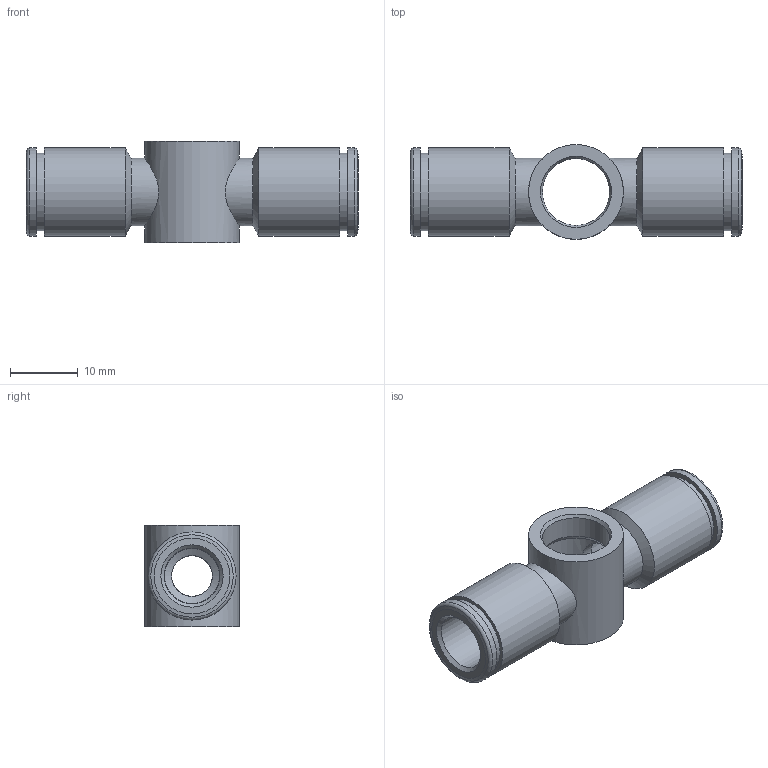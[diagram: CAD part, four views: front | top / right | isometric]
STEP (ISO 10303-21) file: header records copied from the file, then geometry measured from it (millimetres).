
FILE_DESCRIPTION(('Bauteilbeschreibung','HiCAD-Model','HiCAD-STEP-TRANSLATION','Bauteilbeschreibung'),'2;1');
FILE_NAME('B:/ABGLEICH/ZEICHNUNGEN/STEP FÜR INTERNET/STEP/201307_IPSO_014_8_1-8.STP','2011-08-04T15:12:05+00:00',('Konstrukteur'),('Konstrukteur Firma GmbH'),' HiCAD neXt 2008, Step 3.1.1401.2J ','HiCAD neXt 2008','confidential');
FILE_SCHEMA(('AUTOMOTIVE_DESIGN { 1 2 10303 214 0 1 1 1 }'));
Length unit declared in the file: millimetre
Products named in the file (4): A01307_IPSO_014_8_1_8; DR8_1_NEU; DR8010NEU; R201307_N
Assembly tree (3 placements, depth 2):
  A01307_IPSO_014_8_1_8
    DR8_1_NEU
    DR8010NEU
    R201307_N
Bounding box: 49 x 14 x 15 mm (x, y, z)
Volume: 2954.8 mm3; surface area: 4956.3 mm2
Topology: 3 solids, 3 shells, 60 faces, 123 edges, 73 vertices
Faces by surface type: cylinder 24, cone 22, plane 12, torus 2
Full cylindrical faces by diameter (mm): 6 x2, 8.1 x2, 8.2 x2, 9.9 x2, 10 x2, 10.1 x2, 10.6 x1, 11 x2, 11.5 x2, 11.6 x2, 13 x4, 14 x1
Entity records: 4307 total; most frequent: CARTESIAN_POINT 2866, DIRECTION 248, AXIS2_PLACEMENT_3D 124, EDGE_LOOP 124, ORIENTED_EDGE 124, FACE_BOUND 64, EDGE_CURVE 62, VERTEX_POINT 62
